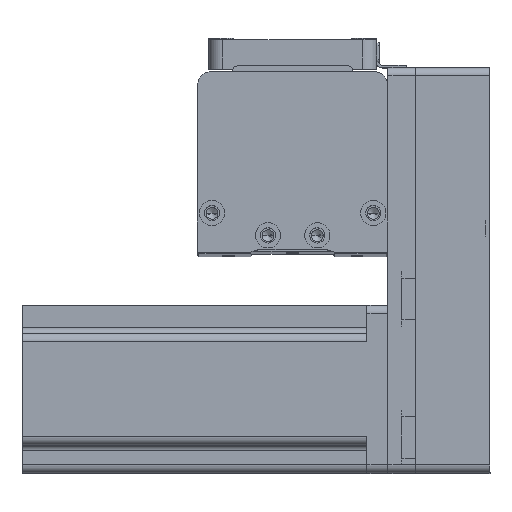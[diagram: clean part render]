
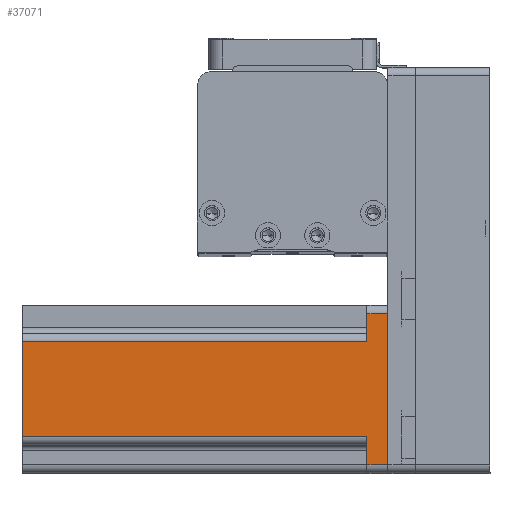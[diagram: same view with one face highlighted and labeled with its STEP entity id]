
A CAD part, top view. The second image highlights one B-rep face of the part: STEP entity #37071.
In plain terms, the highlighted planar face has unit normal (0, 0, 1) as drawn and (0, 1, 0) by its records, which use the part's own axes.
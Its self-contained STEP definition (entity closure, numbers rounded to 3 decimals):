
#152 = LINE ( 'NONE', #44348, #27950 ) ;
#441 = VERTEX_POINT ( 'NONE', #26299 ) ;
#470 = LINE ( 'NONE', #22191, #27170 ) ;
#1249 = DIRECTION ( 'NONE',  ( -1., 0., 0. ) ) ;
#2689 = DIRECTION ( 'NONE',  ( 0., 0., -1. ) ) ;
#2994 = ORIENTED_EDGE ( 'NONE', *, *, #26027, .T. ) ;
#3043 = CARTESIAN_POINT ( 'NONE',  ( -17., 30., 7.5 ) ) ;
#3885 = VECTOR ( 'NONE', #30935, 1000. ) ;
#4975 = LINE ( 'NONE', #10182, #3885 ) ;
#5167 = LINE ( 'NONE', #30638, #40024 ) ;
#5719 = EDGE_CURVE ( 'NONE', #24674, #441, #42566, .T. ) ;
#6214 = DIRECTION ( 'NONE',  ( -1., 0., 0. ) ) ;
#6821 = VECTOR ( 'NONE', #27228, 1000. ) ;
#8715 = EDGE_CURVE ( 'NONE', #28968, #36981, #5167, .T. ) ;
#10182 = CARTESIAN_POINT ( 'NONE',  ( 20., 30., 7.5 ) ) ;
#10365 = ORIENTED_EDGE ( 'NONE', *, *, #11540, .F. ) ;
#10757 = LINE ( 'NONE', #32673, #28180 ) ;
#10854 = DIRECTION ( 'NONE',  ( 0., -1., 0. ) ) ;
#11540 = EDGE_CURVE ( 'NONE', #24674, #40314, #470, .T. ) ;
#14906 = VERTEX_POINT ( 'NONE', #3043 ) ;
#14968 = DIRECTION ( 'NONE',  ( 0., 0., -1. ) ) ;
#16907 = EDGE_CURVE ( 'NONE', #19360, #441, #4975, .T. ) ;
#18804 = VECTOR ( 'NONE', #40144, 1000. ) ;
#19176 = CARTESIAN_POINT ( 'NONE',  ( 27., 30., 7.5 ) ) ;
#19323 = CARTESIAN_POINT ( 'NONE',  ( -20., 30., 7.5 ) ) ;
#19360 = VERTEX_POINT ( 'NONE', #19176 ) ;
#20160 = ORIENTED_EDGE ( 'NONE', *, *, #5719, .T. ) ;
#21668 = EDGE_CURVE ( 'NONE', #19360, #28968, #152, .T. ) ;
#22191 = CARTESIAN_POINT ( 'NONE',  ( 30., 30., 130.7 ) ) ;
#22276 = ORIENTED_EDGE ( 'NONE', *, *, #32652, .T. ) ;
#24241 = FACE_OUTER_BOUND ( 'NONE', #44355, .T. ) ;
#24674 = VERTEX_POINT ( 'NONE', #34776 ) ;
#25362 = VERTEX_POINT ( 'NONE', #43033 ) ;
#26027 = EDGE_CURVE ( 'NONE', #36981, #25362, #10757, .T. ) ;
#26299 = CARTESIAN_POINT ( 'NONE',  ( 17., 30., 7.5 ) ) ;
#26624 = CARTESIAN_POINT ( 'NONE',  ( 27., 30., 0. ) ) ;
#27170 = VECTOR ( 'NONE', #1249, 1000. ) ;
#27228 = DIRECTION ( 'NONE',  ( 0., 0., 1. ) ) ;
#27950 = VECTOR ( 'NONE', #2689, 1000. ) ;
#28180 = VECTOR ( 'NONE', #36172, 1000. ) ;
#28968 = VERTEX_POINT ( 'NONE', #26624 ) ;
#29757 = AXIS2_PLACEMENT_3D ( 'NONE', #31704, #10854, #35198 ) ;
#30115 = CARTESIAN_POINT ( 'NONE',  ( -17., 30., 130.7 ) ) ;
#30638 = CARTESIAN_POINT ( 'NONE',  ( 30., 30., 0. ) ) ;
#30935 = DIRECTION ( 'NONE',  ( -1., 0., 0. ) ) ;
#31704 = CARTESIAN_POINT ( 'NONE',  ( 30., 30., 130.7 ) ) ;
#32652 = EDGE_CURVE ( 'NONE', #14906, #40314, #34639, .T. ) ;
#32673 = CARTESIAN_POINT ( 'NONE',  ( -27., 30., 130.7 ) ) ;
#33086 = EDGE_CURVE ( 'NONE', #25362, #14906, #38394, .T. ) ;
#34639 = LINE ( 'NONE', #44672, #6821 ) ;
#34776 = CARTESIAN_POINT ( 'NONE',  ( 17., 30., 130.7 ) ) ;
#35034 = PLANE ( 'NONE',  #29757 ) ;
#35198 = DIRECTION ( 'NONE',  ( 1., 0., 0. ) ) ;
#35648 = ORIENTED_EDGE ( 'NONE', *, *, #8715, .T. ) ;
#36172 = DIRECTION ( 'NONE',  ( 0., 0., 1. ) ) ;
#36981 = VERTEX_POINT ( 'NONE', #41736 ) ;
#37071 = ADVANCED_FACE ( 'NONE', ( #24241 ), #35034, .F. ) ;
#38394 = LINE ( 'NONE', #19323, #18804 ) ;
#39170 = CARTESIAN_POINT ( 'NONE',  ( 17., 30., 130.7 ) ) ;
#39347 = VECTOR ( 'NONE', #14968, 1000. ) ;
#40024 = VECTOR ( 'NONE', #6214, 1000. ) ;
#40144 = DIRECTION ( 'NONE',  ( 1., 0., 0. ) ) ;
#40314 = VERTEX_POINT ( 'NONE', #30115 ) ;
#40540 = ORIENTED_EDGE ( 'NONE', *, *, #16907, .F. ) ;
#41736 = CARTESIAN_POINT ( 'NONE',  ( -27., 30., 0. ) ) ;
#41788 = ORIENTED_EDGE ( 'NONE', *, *, #33086, .T. ) ;
#42566 = LINE ( 'NONE', #39170, #39347 ) ;
#43033 = CARTESIAN_POINT ( 'NONE',  ( -27., 30., 7.5 ) ) ;
#43555 = ORIENTED_EDGE ( 'NONE', *, *, #21668, .T. ) ;
#44348 = CARTESIAN_POINT ( 'NONE',  ( 27., 30., 130.7 ) ) ;
#44355 = EDGE_LOOP ( 'NONE', ( #41788, #22276, #10365, #20160, #40540, #43555, #35648, #2994 ) ) ;
#44672 = CARTESIAN_POINT ( 'NONE',  ( -17., 30., 130.7 ) ) ;
